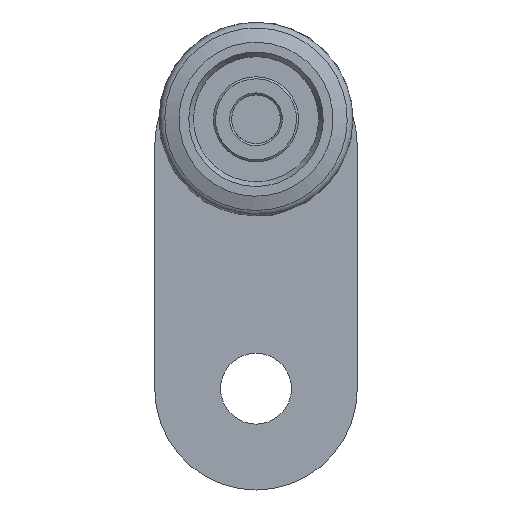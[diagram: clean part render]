
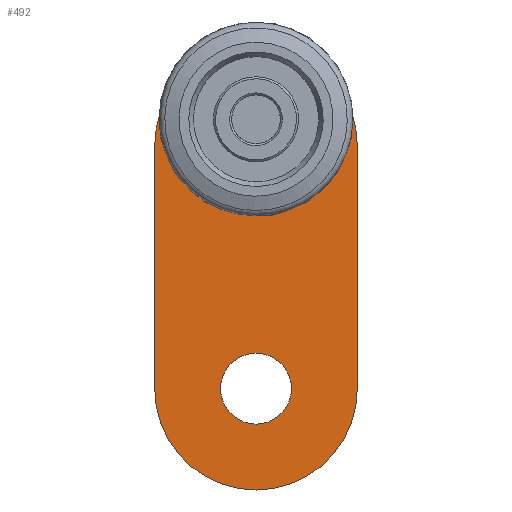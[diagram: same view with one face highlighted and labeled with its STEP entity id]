
A CAD part, left-side view. The second image highlights one B-rep face of the part: STEP entity #492.
In plain terms, the highlighted planar face has unit normal (-1, 0, 0) as drawn and (0, 0, 1) by its records, which use the part's own axes.
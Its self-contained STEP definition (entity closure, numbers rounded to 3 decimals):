
#45=LINE('',#892,#53);
#49=LINE('',#903,#57);
#53=VECTOR('',#711,60.);
#57=VECTOR('',#723,60.);
#112=FACE_BOUND('',#219,.T.);
#113=FACE_BOUND('',#220,.T.);
#159=FACE_OUTER_BOUND('',#218,.T.);
#218=EDGE_LOOP('',(#428,#429,#430,#431));
#219=EDGE_LOOP('',(#432));
#220=EDGE_LOOP('',(#433));
#257=CIRCLE('',#554,8.75);
#259=CIRCLE('',#557,6.15);
#261=CIRCLE('',#560,25.);
#263=CIRCLE('',#564,25.);
#294=VERTEX_POINT('',#872);
#296=VERTEX_POINT('',#877);
#298=VERTEX_POINT('',#882);
#299=VERTEX_POINT('',#883);
#302=VERTEX_POINT('',#891);
#304=VERTEX_POINT('',#897);
#336=EDGE_CURVE('',#294,#294,#257,.T.);
#338=EDGE_CURVE('',#296,#296,#259,.T.);
#340=EDGE_CURVE('',#298,#299,#261,.T.);
#344=EDGE_CURVE('',#299,#302,#45,.T.);
#347=EDGE_CURVE('',#302,#304,#263,.T.);
#350=EDGE_CURVE('',#304,#298,#49,.T.);
#428=ORIENTED_EDGE('',*,*,#340,.F.);
#429=ORIENTED_EDGE('',*,*,#350,.F.);
#430=ORIENTED_EDGE('',*,*,#347,.F.);
#431=ORIENTED_EDGE('',*,*,#344,.F.);
#432=ORIENTED_EDGE('',*,*,#336,.T.);
#433=ORIENTED_EDGE('',*,*,#338,.T.);
#458=PLANE('',#567);
#492=ADVANCED_FACE('',(#159,#112,#113),#458,.T.);
#554=AXIS2_PLACEMENT_3D('',#873,#691,#692);
#557=AXIS2_PLACEMENT_3D('',#878,#697,#698);
#560=AXIS2_PLACEMENT_3D('',#884,#703,#704);
#564=AXIS2_PLACEMENT_3D('',#898,#716,#717);
#567=AXIS2_PLACEMENT_3D('',#905,#725,#726);
#691=DIRECTION('center_axis',(0.,0.,-1.));
#692=DIRECTION('ref_axis',(-1.,0.,0.));
#697=DIRECTION('center_axis',(0.,0.,-1.));
#698=DIRECTION('ref_axis',(-1.,0.,0.));
#703=DIRECTION('center_axis',(0.,0.,-1.));
#704=DIRECTION('ref_axis',(0.,1.,0.));
#711=DIRECTION('',(-1.,0.,0.));
#716=DIRECTION('center_axis',(0.,0.,-1.));
#717=DIRECTION('ref_axis',(0.,-1.,0.));
#723=DIRECTION('',(1.,0.,0.));
#725=DIRECTION('center_axis',(0.,0.,1.));
#726=DIRECTION('ref_axis',(1.,0.,0.));
#872=CARTESIAN_POINT('',(-57.75,0.,10.));
#873=CARTESIAN_POINT('Origin',(-66.5,0.,10.));
#877=CARTESIAN_POINT('',(6.15,0.,10.));
#878=CARTESIAN_POINT('Origin',(0.,0.,10.));
#882=CARTESIAN_POINT('',(-6.5,25.,10.));
#883=CARTESIAN_POINT('',(-6.5,-25.,10.));
#884=CARTESIAN_POINT('Origin',(-6.5,0.,10.));
#891=CARTESIAN_POINT('',(-66.5,-25.,10.));
#892=CARTESIAN_POINT('',(-6.5,-25.,10.));
#897=CARTESIAN_POINT('',(-66.5,25.,10.));
#898=CARTESIAN_POINT('Origin',(-66.5,0.,10.));
#903=CARTESIAN_POINT('',(-66.5,25.,10.));
#905=CARTESIAN_POINT('Origin',(-36.5,0.,10.));
